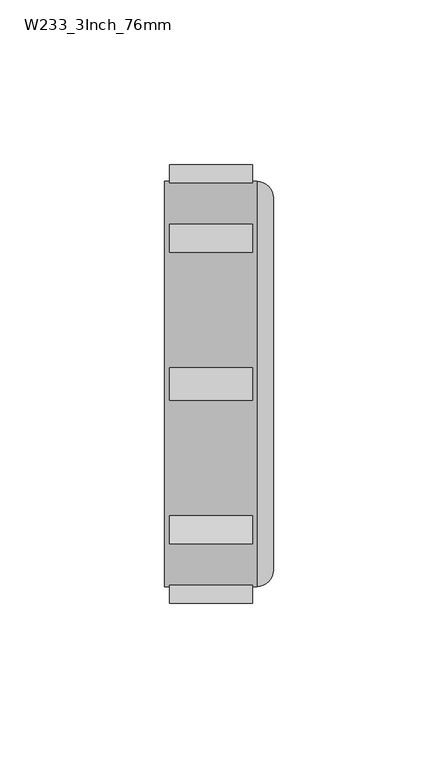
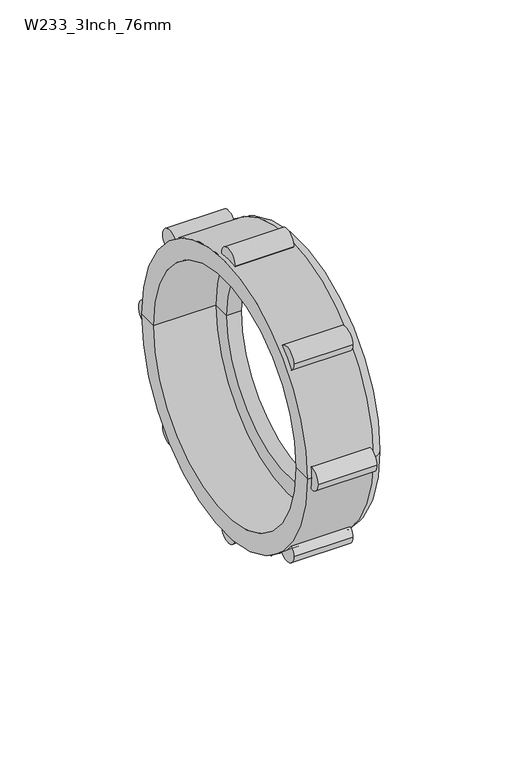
"""IFC4 building model written with IfcOpenShell, lengths in millimetres: pipe fitting geometry, Durapipe_PipeFitting_VulcatheneMechanical_Nut_W23 : W233_3Inch_76mm."""

from ifc_helpers import new_model, si_unit, point, frame, frame_2d, origin, place, context, project, spatial, polyline, circle_curve, ellipse_curve, trimmed, segment, composite_curve, outline, extrude, source, transform, mapped, element, save
from ifc_brep_helpers import plane_surface, cylinder_surface, revolved_surface, advanced_brep


def w233_3inch_76mm_30b5535d(model_context):
    return source(origin(), model_context, "Body", "SolidModel", [
        advanced_brep(
        [(-17.25, 61.5, 0.0), (10.75, 61.5, 0.0), (10.75, -61.5, 0.0), (-17.25, -61.5, 0.0), (-17.25, 53.0, 0.0), (-17.25, -53.0, 0.0), (15.75, 56.5, 0.0), (15.75, 45.0, 0.0), (15.75, -45.0, 0.0), (15.75, -56.5, 0.0), (9.45, 53.0, 0.0), (9.45, -53.0, 0.0), (9.45, 45.0, 0.0), (9.45, -45.0, 0.0)],
        [
            (0, 1),
            (1, 2, circle_curve(frame((10.75, 0.0, 0.0), z_axis=(-1.0, 0.0, 0.0), x_axis=(0.0, -1.0, 0.0)), 61.5)),
            (2, 3),
            (3, 0, circle_curve(frame((-17.25, 0.0, 0.0), z_axis=(1.0, 0.0, 0.0), x_axis=(0.0, -1.0, 0.0)), 61.5)),
            (2, 1, circle_curve(frame((10.75, 0.0, 0.0), z_axis=(-1.0, 0.0, 0.0), x_axis=(0.0, -1.0, 0.0)), 61.5)),
            (0, 3, circle_curve(frame((-17.25, 0.0, 0.0), z_axis=(1.0, 0.0, 0.0), x_axis=(0.0, -1.0, 0.0)), 61.5)),
            (4, 0),
            (3, 5),
            (5, 4, circle_curve(frame((-17.25, 0.0, 0.0), z_axis=(1.0, 0.0, 0.0), x_axis=(0.0, -1.0, 0.0)), 53.0)),
            (4, 5, circle_curve(frame((-17.25, 0.0, 0.0), z_axis=(1.0, 0.0, 0.0), x_axis=(0.0, -1.0, 0.0)), 53.0)),
            (6, 7),
            (7, 8, circle_curve(frame((15.75, 0.0, 0.0), z_axis=(-1.0, 0.0, 0.0), x_axis=(0.0, -1.0, 0.0)), 45.0)),
            (8, 9),
            (9, 6, circle_curve(frame((15.75, 0.0, 0.0), z_axis=(1.0, 0.0, 0.0), x_axis=(0.0, -1.0, 0.0)), 56.5)),
            (8, 7, circle_curve(frame((15.75, 0.0, 0.0), z_axis=(-1.0, 0.0, 0.0), x_axis=(0.0, -1.0, 0.0)), 45.0)),
            (6, 9, circle_curve(frame((15.75, 0.0, 0.0), z_axis=(1.0, 0.0, 0.0), x_axis=(0.0, -1.0, 0.0)), 56.5)),
            (1, 6, circle_curve(frame((10.75, 56.5, 0.0), z_axis=(0.0, 0.0, -1.0), x_axis=(1.0, 0.0, 0.0)), 5.0)),
            (9, 2, circle_curve(frame((10.75, -56.5, 0.0), z_axis=(0.0, 0.0, -1.0), x_axis=(1.0, 0.0, 0.0)), 5.0)),
            (10, 4),
            (5, 11),
            (11, 10, circle_curve(frame((9.45, 0.0, 0.0), z_axis=(1.0, 0.0, 0.0), x_axis=(0.0, -1.0, 0.0)), 53.0)),
            (10, 11, circle_curve(frame((9.45, 0.0, 0.0), z_axis=(1.0, 0.0, 0.0), x_axis=(0.0, -1.0, 0.0)), 53.0)),
            (12, 10),
            (11, 13),
            (13, 12, circle_curve(frame((9.45, 0.0, 0.0), z_axis=(1.0, 0.0, 0.0), x_axis=(0.0, -1.0, 0.0)), 45.0)),
            (12, 13, circle_curve(frame((9.45, 0.0, 0.0), z_axis=(1.0, 0.0, 0.0), x_axis=(0.0, -1.0, 0.0)), 45.0)),
            (7, 12),
            (13, 8),
        ],
        [
            cylinder_surface(frame((1576.5518184, 0.0, 0.0), z_axis=(-1.0, 0.0, 0.0), x_axis=(0.0, -1.0, 0.0)), 61.5),
            plane_surface(frame((-17.25, 0.0, 0.0), z_axis=(-1.0, 0.0, 0.0), x_axis=(0.0, -1.0, 0.0))),
            plane_surface(frame((15.75, 0.0, 0.0), z_axis=(1.0, 0.0, 0.0), x_axis=(0.0, -1.0, 0.0))),
            revolved_surface(trimmed(ellipse_curve(frame((10.75, -56.5, 0.0), z_axis=(0.0, 0.0, -1.0), x_axis=(1.0, 0.0, 0.0)), 5.0, 5.0), [point((15.75, -56.5, 0.0))], [point((10.75, -61.5, 0.0))], True, "CARTESIAN"), (1576.5518184, 0.0, 0.0), (-1.0, 0.0, 0.0)),
            revolved_surface(polyline([(-17.25, -53.0, 0.0), (9.450000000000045, -53.0, 0.0)]), (1576.5518184, 0.0, 0.0), (-1.0, 0.0, 0.0)),
            plane_surface(frame((9.45, 0.0, 0.0), z_axis=(-1.0, 0.0, 0.0), x_axis=(0.0, -1.0, 0.0))),
            revolved_surface(polyline([(9.450000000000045, -45.0, 0.0), (15.75, -45.0, 0.0)]), (1576.5518184, 0.0, 0.0), (-1.0, 0.0, 0.0)),
        ],
        [
            (0, [[1, 2, 3, 4]]),
            (0, [[-3, 5, -1, 6]]),
            (1, [[7, -4, 8, 9]]),
            (1, [[-8, -6, -7, 10]]),
            (2, [[11, 12, 13, 14]]),
            (2, [[-13, 15, -11, 16]]),
            (3, [[17, -14, 18, -2]]),
            (3, [[-18, -16, -17, -5]]),
            (4, [[19, -9, 20, 21]]),
            (4, [[-20, -10, -19, 22]]),
            (5, [[23, -21, 24, 25]]),
            (5, [[-24, -22, -23, 26]]),
            (6, [[27, -25, 28, -12]]),
            (6, [[-28, -26, -27, -15]]),
        ],
    ),
        extrude(outline(composite_curve([segment(trimmed(circle_curve(frame_2d((0.0, 61.5)), 5.0), [point((5.0, 61.5))], [point((-5.0, 61.5))], False, "CARTESIAN"), True, "CONTINUOUS"), segment(trimmed(circle_curve(frame_2d((0.0, 61.5)), 5.0), [point((-5.0, 61.5))], [point((5.0, 61.5))], False, "CARTESIAN"), True, "CONTINUOUS")], self_intersect=False)), frame((-15.75, 0.0, 0.0), z_axis=(1.0, 0.0, 0.0), x_axis=(0.0, 1.0, 0.0)), (0.0, 0.0, 1.0), 25.2),
        extrude(outline(composite_curve([segment(trimmed(circle_curve(frame_2d((-43.487067, 43.487067)), 5.0), [point((-38.487067, 43.487067))], [point((-48.487067, 43.487067))], False, "CARTESIAN"), True, "CONTINUOUS"), segment(trimmed(circle_curve(frame_2d((-43.487067, 43.487067)), 5.0), [point((-48.487067, 43.487067))], [point((-38.487067, 43.487067))], False, "CARTESIAN"), True, "CONTINUOUS")], self_intersect=False)), frame((-15.75, 0.0, 0.0), z_axis=(1.0, 0.0, 0.0), x_axis=(0.0, 1.0, 0.0)), (0.0, 0.0, 1.0), 25.2),
        extrude(outline(composite_curve([segment(trimmed(circle_curve(frame_2d((-61.5, 0.0)), 5.0), [point((-56.5, 0.0))], [point((-66.5, 0.0))], False, "CARTESIAN"), True, "CONTINUOUS"), segment(trimmed(circle_curve(frame_2d((-61.5, 0.0)), 5.0), [point((-66.5, 0.0))], [point((-56.5, 0.0))], False, "CARTESIAN"), True, "CONTINUOUS")], self_intersect=False)), frame((-15.75, 0.0, 0.0), z_axis=(1.0, 0.0, 0.0), x_axis=(0.0, 1.0, 0.0)), (0.0, 0.0, 1.0), 25.2),
        extrude(outline(composite_curve([segment(trimmed(circle_curve(frame_2d((-43.487067, -43.487067)), 5.0), [point((-38.487067, -43.487067))], [point((-48.487067, -43.487067))], False, "CARTESIAN"), True, "CONTINUOUS"), segment(trimmed(circle_curve(frame_2d((-43.487067, -43.487067)), 5.0), [point((-48.487067, -43.487067))], [point((-38.487067, -43.487067))], False, "CARTESIAN"), True, "CONTINUOUS")], self_intersect=False)), frame((-15.75, 0.0, 0.0), z_axis=(1.0, 0.0, 0.0), x_axis=(0.0, 1.0, 0.0)), (0.0, 0.0, 1.0), 25.2),
        extrude(outline(composite_curve([segment(trimmed(circle_curve(frame_2d((0.0, -61.5)), 5.0), [point((5.0, -61.5))], [point((-5.0, -61.5))], False, "CARTESIAN"), True, "CONTINUOUS"), segment(trimmed(circle_curve(frame_2d((0.0, -61.5)), 5.0), [point((-5.0, -61.5))], [point((5.0, -61.5))], False, "CARTESIAN"), True, "CONTINUOUS")], self_intersect=False)), frame((-15.75, 0.0, 0.0), z_axis=(1.0, 0.0, 0.0), x_axis=(0.0, 1.0, 0.0)), (0.0, 0.0, 1.0), 25.2),
        extrude(outline(composite_curve([segment(trimmed(circle_curve(frame_2d((43.487067, -43.487067)), 5.0), [point((48.487067, -43.487067))], [point((38.487067, -43.487067))], False, "CARTESIAN"), True, "CONTINUOUS"), segment(trimmed(circle_curve(frame_2d((43.487067, -43.487067)), 5.0), [point((38.487067, -43.487067))], [point((48.487067, -43.487067))], False, "CARTESIAN"), True, "CONTINUOUS")], self_intersect=False)), frame((-15.75, 0.0, 0.0), z_axis=(1.0, 0.0, 0.0), x_axis=(0.0, 1.0, 0.0)), (0.0, 0.0, 1.0), 25.2),
        extrude(outline(composite_curve([segment(trimmed(circle_curve(frame_2d((61.5, 0.0)), 5.0), [point((66.5, 0.0))], [point((56.5, 0.0))], False, "CARTESIAN"), True, "CONTINUOUS"), segment(trimmed(circle_curve(frame_2d((61.5, 0.0)), 5.0), [point((56.5, 0.0))], [point((66.5, 0.0))], False, "CARTESIAN"), True, "CONTINUOUS")], self_intersect=False)), frame((-15.75, 0.0, 0.0), z_axis=(1.0, 0.0, 0.0), x_axis=(0.0, 1.0, 0.0)), (0.0, 0.0, 1.0), 25.2),
        extrude(outline(composite_curve([segment(trimmed(circle_curve(frame_2d((43.487067, 43.487067)), 5.0), [point((48.487067, 43.487067))], [point((38.487067, 43.487067))], False, "CARTESIAN"), True, "CONTINUOUS"), segment(trimmed(circle_curve(frame_2d((43.487067, 43.487067)), 5.0), [point((38.487067, 43.487067))], [point((48.487067, 43.487067))], False, "CARTESIAN"), True, "CONTINUOUS")], self_intersect=False)), frame((-15.75, 0.0, 0.0), z_axis=(1.0, 0.0, 0.0), x_axis=(0.0, 1.0, 0.0)), (0.0, 0.0, 1.0), 25.2),
    ])


if __name__ == "__main__":
    model = new_model("IFC4")
    model_context = context("Model", 3, world=origin())
    ifc_project = project(units=[si_unit("LENGTHUNIT", "METRE", prefix="MILLI")], contexts=[model_context])
    site = spatial("IfcSite", under=ifc_project)
    building = spatial("IfcBuilding", under=site)
    placement = place(None, origin())
    w233_3inch_76mm_shape = w233_3inch_76mm_30b5535d(model_context)
    element("IfcPipeFitting", 1, ObjectType="Durapipe_PipeFitting_VulcatheneMechanical_Nut_W23 : W233_3Inch_76mm", at=placement, inside=building, context=model_context, shape_type="MappedRepresentation", body=[
        mapped(w233_3inch_76mm_shape, transform((0.0, 0.0, 0.0), x_axis=(1.0, 0.0, 0.0), y_axis=(0.0, 1.0, 0.0), z_axis=(0.0, 0.0, 1.0))),
    ])
    save(model, "model.ifc")
